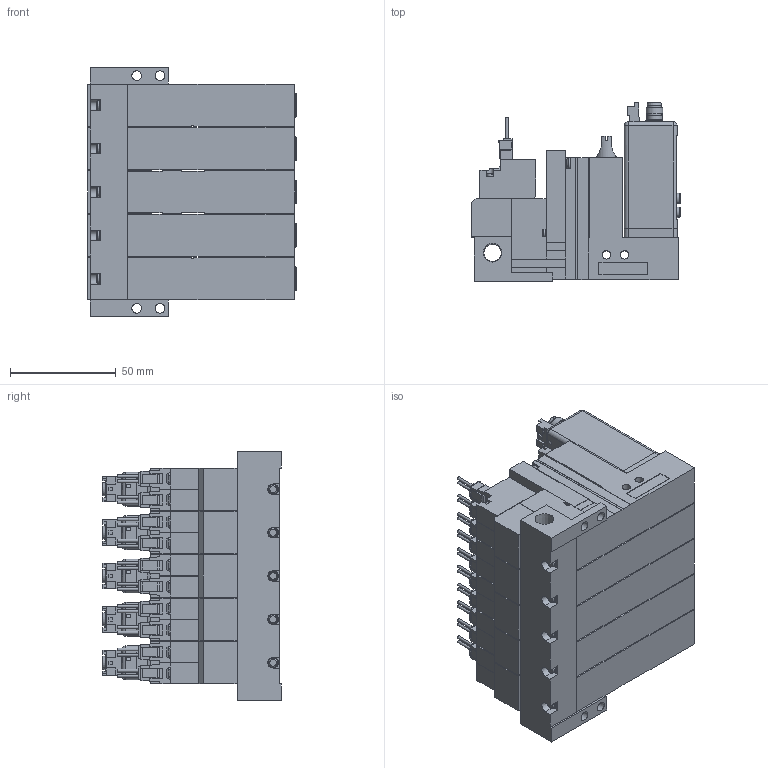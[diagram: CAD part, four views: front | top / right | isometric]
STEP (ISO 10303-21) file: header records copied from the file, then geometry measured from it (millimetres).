
FILE_DESCRIPTION(('STEP AP203'),'1');
FILE_NAME('22_22PLC5BLR505.stp','2025-06-12T04:40:51',(' '),(' '),'Spatial InterOp 3D',' ',' ');
FILE_SCHEMA(('CONFIG_CONTROL_DESIGN'));
Length unit declared in the file: millimetre
Products named in the file (9): BMC22M※※※※22_22PLC5BLR505; Solenoid valve B; Unit LC; Base MR50R; MVS-202
Assembly tree (16 placements, depth 2):
  BMC22M※※※※22_22PLC5BLR505
    Solenoid valve B  x5
    Unit LC  x5
    Base MR50R
    MVS-202
    MVS-202
    MVS-202
    MVS-202
    MVS-202
Bounding box: 98.5 x 84.6 x 118 mm (x, y, z)
Volume: 544299.9 mm3; surface area: 155211.7 mm2
Topology: 16 solids, 36 shells, 3921 faces, 10224 edges, 6670 vertices
Faces by surface type: plane 3304, cylinder 475, cone 82, torus 40, sphere 20
Full cylindrical faces by diameter (mm): 1 x20, 1.4 x20, 1.5 x5, 2.5 x5, 3 x20, 3.5 x20, 3.6 x5, 4 x10, 4.134 x5, 4.5 x24, 4.8 x15, 5 x10, 5.2 x5, 5.8 x10, 6 x10, 6.5 x15, 6.6 x5, 7 x5, 7.2 x5, 7.9 x5, 8 x10, 8.279 x1
Entity records: 75761 total; most frequent: CARTESIAN_POINT 13675, ORIENTED_EDGE 12398, DIRECTION 12219, EDGE_CURVE 6199, LINE 5233, VECTOR 5233, VERTEX_POINT 4193, AXIS2_PLACEMENT_3D 3493
